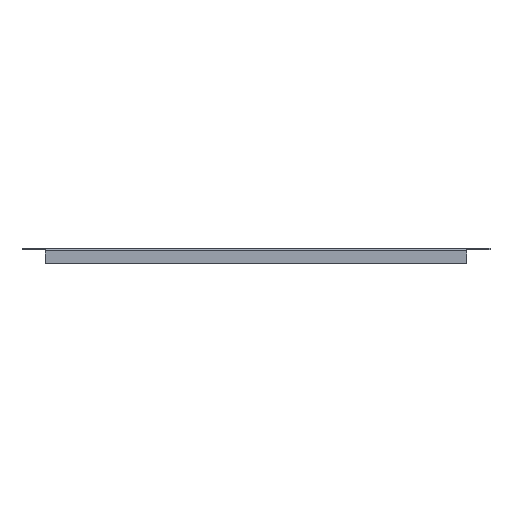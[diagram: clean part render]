
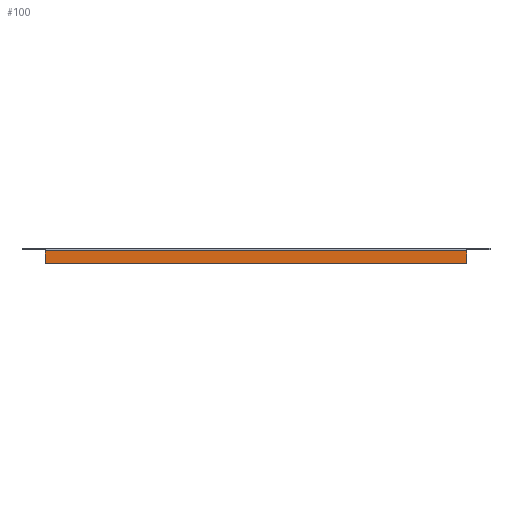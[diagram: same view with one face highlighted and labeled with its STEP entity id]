
A CAD part, front view. The second image highlights one B-rep face of the part: STEP entity #100.
In plain terms, the highlighted planar face has unit normal (0, -1, 0).
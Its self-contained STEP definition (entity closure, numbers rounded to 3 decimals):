
#18 = EDGE_CURVE ( 'NONE', #751, #748, #803, .T. ) ;
#100 = ADVANCED_FACE ( 'NONE', ( #283 ), #1009, .F. ) ;
#105 = EDGE_CURVE ( 'NONE', #754, #751, #1013, .T. ) ;
#128 = EDGE_CURVE ( 'NONE', #748, #753, #1078, .T. ) ;
#162 = EDGE_CURVE ( 'NONE', #753, #754, #1166, .T. ) ;
#206 = VECTOR ( 'NONE', #1080, 1000. ) ;
#253 = EDGE_LOOP ( 'NONE', ( #518, #473, #479, #494 ) ) ;
#278 = VECTOR ( 'NONE', #1015, 1000. ) ;
#281 = AXIS2_PLACEMENT_3D ( 'NONE', #1010, #1011, #1012 ) ;
#283 = FACE_OUTER_BOUND ( 'NONE', #253, .T. ) ;
#299 = VECTOR ( 'NONE', #1168, 1000. ) ;
#440 = VECTOR ( 'NONE', #805, 1000. ) ;
#473 = ORIENTED_EDGE ( 'NONE', *, *, #105, .F. ) ;
#479 = ORIENTED_EDGE ( 'NONE', *, *, #162, .F. ) ;
#494 = ORIENTED_EDGE ( 'NONE', *, *, #128, .F. ) ;
#518 = ORIENTED_EDGE ( 'NONE', *, *, #18, .F. ) ;
#748 = VERTEX_POINT ( 'NONE', #1282 ) ;
#751 = VERTEX_POINT ( 'NONE', #1285 ) ;
#753 = VERTEX_POINT ( 'NONE', #1287 ) ;
#754 = VERTEX_POINT ( 'NONE', #1288 ) ;
#803 = LINE ( 'NONE', #804, #440 ) ;
#804 = CARTESIAN_POINT ( 'NONE',  ( 209.5, -199.5, -1.2 ) ) ;
#805 = DIRECTION ( 'NONE',  ( 1., 0., 0. ) ) ;
#1009 = PLANE ( 'NONE',  #281 ) ;
#1010 = CARTESIAN_POINT ( 'NONE',  ( 209.5, -199.5, 0. ) ) ;
#1011 = DIRECTION ( 'NONE',  ( 0., 1., 0. ) ) ;
#1012 = DIRECTION ( 'NONE',  ( 0., 0., 1. ) ) ;
#1013 = LINE ( 'NONE', #1014, #278 ) ;
#1014 = CARTESIAN_POINT ( 'NONE',  ( -209.5, -199.5, -13.8 ) ) ;
#1015 = DIRECTION ( 'NONE',  ( 0., 0., 1. ) ) ;
#1078 = LINE ( 'NONE', #1079, #206 ) ;
#1079 = CARTESIAN_POINT ( 'NONE',  ( 209.5, -199.5, 0. ) ) ;
#1080 = DIRECTION ( 'NONE',  ( 0., 0., -1. ) ) ;
#1166 = LINE ( 'NONE', #1167, #299 ) ;
#1167 = CARTESIAN_POINT ( 'NONE',  ( 209.5, -199.5, -13.8 ) ) ;
#1168 = DIRECTION ( 'NONE',  ( -1., 0., 0. ) ) ;
#1282 = CARTESIAN_POINT ( 'NONE',  ( 209.5, -199.5, -1.2 ) ) ;
#1285 = CARTESIAN_POINT ( 'NONE',  ( -209.5, -199.5, -1.2 ) ) ;
#1287 = CARTESIAN_POINT ( 'NONE',  ( 209.5, -199.5, -13.8 ) ) ;
#1288 = CARTESIAN_POINT ( 'NONE',  ( -209.5, -199.5, -13.8 ) ) ;
